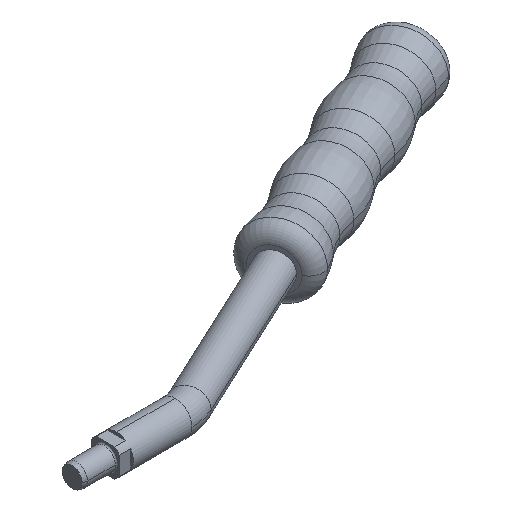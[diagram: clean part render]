
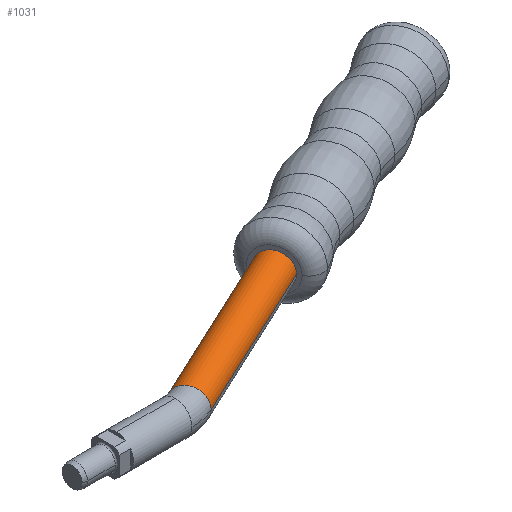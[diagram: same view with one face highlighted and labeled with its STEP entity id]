
A CAD part, isometric view. The second image highlights one B-rep face of the part: STEP entity #1031.
In plain terms, the highlighted cylindrical face has radius 6 mm (diameter 12 mm), a partial arc.
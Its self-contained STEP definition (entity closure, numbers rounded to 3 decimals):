
#197 = CARTESIAN_POINT ( 'NONE',  ( 31.339, 1.405, 0. ) ) ;
#376 = CARTESIAN_POINT ( 'NONE',  ( 104.36, 42.076, 0. ) ) ;
#391 = VERTEX_POINT ( 'NONE', #376 ) ;
#394 = FACE_OUTER_BOUND ( 'NONE', #933, .T. ) ;
#550 = AXIS2_PLACEMENT_3D ( 'NONE', #197, #1123, #2048 ) ;
#712 = AXIS2_PLACEMENT_3D ( 'NONE', #2691, #1338, #1555 ) ;
#763 = DIRECTION ( 'NONE',  ( 0.906, 0.423, 0. ) ) ;
#933 = EDGE_LOOP ( 'NONE', ( #1364, #1288, #2833, #2584 ) ) ;
#963 = EDGE_CURVE ( 'NONE', #1842, #2098, #1526, .T. ) ;
#1031 = ADVANCED_FACE ( 'NONE', ( #394 ), #1589, .T. ) ;
#1078 = VERTEX_POINT ( 'NONE', #2998 ) ;
#1123 = DIRECTION ( 'NONE',  ( 0.906, 0.423, 0. ) ) ;
#1195 = LINE ( 'NONE', #2105, #2565 ) ;
#1220 = CARTESIAN_POINT ( 'NONE',  ( 109.431, 31.2, 0. ) ) ;
#1263 = AXIS2_PLACEMENT_3D ( 'NONE', #1412, #3027, #1846 ) ;
#1288 = ORIENTED_EDGE ( 'NONE', *, *, #963, .T. ) ;
#1338 = DIRECTION ( 'NONE',  ( 0.906, 0.423, 0. ) ) ;
#1364 = ORIENTED_EDGE ( 'NONE', *, *, #2986, .T. ) ;
#1412 = CARTESIAN_POINT ( 'NONE',  ( 31.339, 1.405, 0. ) ) ;
#1441 = CIRCLE ( 'NONE', #712, 6. ) ;
#1526 = LINE ( 'NONE', #2892, #2601 ) ;
#1555 = DIRECTION ( 'NONE',  ( 0., 0., -1. ) ) ;
#1589 = CYLINDRICAL_SURFACE ( 'NONE', #550, 6. ) ;
#1799 = EDGE_CURVE ( 'NONE', #391, #2098, #1441, .T. ) ;
#1842 = VERTEX_POINT ( 'NONE', #2943 ) ;
#1846 = DIRECTION ( 'NONE',  ( 0., 0., -1. ) ) ;
#2048 = DIRECTION ( 'NONE',  ( -0.423, 0.906, 0. ) ) ;
#2098 = VERTEX_POINT ( 'NONE', #1220 ) ;
#2105 = CARTESIAN_POINT ( 'NONE',  ( 28.804, 6.843, 0. ) ) ;
#2323 = EDGE_CURVE ( 'NONE', #1078, #391, #1195, .T. ) ;
#2379 = DIRECTION ( 'NONE',  ( 0.906, 0.423, 0. ) ) ;
#2565 = VECTOR ( 'NONE', #2379, 1000. ) ;
#2584 = ORIENTED_EDGE ( 'NONE', *, *, #2323, .F. ) ;
#2601 = VECTOR ( 'NONE', #763, 1000. ) ;
#2691 = CARTESIAN_POINT ( 'NONE',  ( 106.896, 36.638, 0. ) ) ;
#2833 = ORIENTED_EDGE ( 'NONE', *, *, #1799, .F. ) ;
#2892 = CARTESIAN_POINT ( 'NONE',  ( 33.875, -4.032, 0. ) ) ;
#2943 = CARTESIAN_POINT ( 'NONE',  ( 33.875, -4.032, 0. ) ) ;
#2986 = EDGE_CURVE ( 'NONE', #1078, #1842, #3018, .T. ) ;
#2998 = CARTESIAN_POINT ( 'NONE',  ( 28.804, 6.843, 0. ) ) ;
#3018 = CIRCLE ( 'NONE', #1263, 6. ) ;
#3027 = DIRECTION ( 'NONE',  ( 0.906, 0.423, 0. ) ) ;
